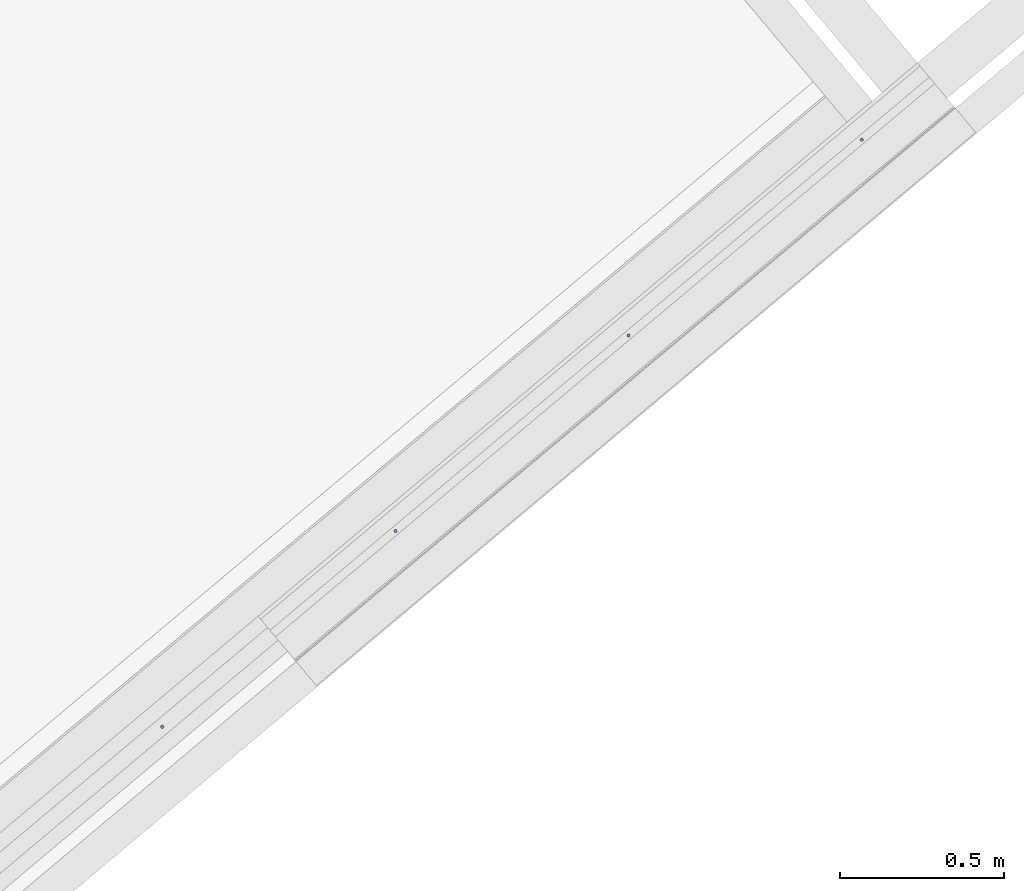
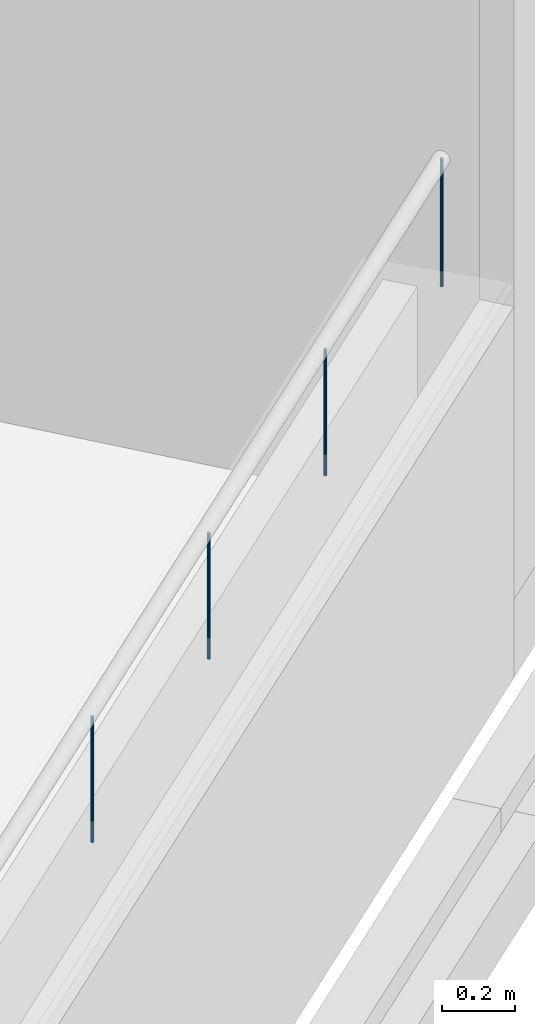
# One storey, part 11 of 321: 4 members, 1 element without a shape of its own.
"""IFC2X3 building model written with IfcOpenShell, lengths in millimetres."""

from ifc_helpers import new_model, entity, si_unit, converted_unit, derived_unit, money_unit, direction, frame, origin_with_axes, place, context, subcontext, project, spatial, faceted_brep, source, transform, mapped, material, type_object, type_shapes, element, aggregate, save


model = new_model("IFC2X3")

# Units and contexts
model_context = context("Model", 3, precision=0.01, world=origin_with_axes(), true_north=direction((0.0, 1.0)))
plan_context = context("Plan", 3, precision=0.01, world=origin_with_axes(), true_north=direction((0.0, 1.0)))
body_context = subcontext(model_context, "Body", "Model", "MODEL_VIEW")
ifc_project = project(units=[si_unit("LENGTHUNIT", "METRE", prefix="MILLI"), si_unit("AREAUNIT", "SQUARE_METRE"), si_unit("VOLUMEUNIT", "CUBIC_METRE"), converted_unit("PLANEANGLEUNIT", "DEGREE", entity("IfcPlaneAngleMeasure", 0.0174532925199), si_unit("PLANEANGLEUNIT", "RADIAN"), dimensions=[0, 0, 0, 0, 0, 0, 0]), money_unit("EUR"), converted_unit("TIMEUNIT", "Year", entity("IfcTimeMeasure", 31556926.0), si_unit("TIMEUNIT", "SECOND"), dimensions=[0, 0, 1, 0, 0, 0, 0]), si_unit("MASSUNIT", "GRAM", prefix="KILO"), si_unit("THERMODYNAMICTEMPERATUREUNIT", "DEGREE_CELSIUS"), si_unit("LUMINOUSINTENSITYUNIT", "LUMEN"), si_unit("ENERGYUNIT", "JOULE", prefix="MEGA"), derived_unit("THERMALCONDUCTANCEUNIT", [(si_unit("POWERUNIT", "WATT"), 1), (si_unit("LENGTHUNIT", "METRE"), -1), (si_unit("THERMODYNAMICTEMPERATUREUNIT", "KELVIN"), -1)]), derived_unit("SPECIFICHEATCAPACITYUNIT", [(si_unit("ENERGYUNIT", "JOULE"), 1), (si_unit("MASSUNIT", "GRAM", prefix="KILO"), -1), (si_unit("THERMODYNAMICTEMPERATUREUNIT", "KELVIN"), -1)]), derived_unit("MASSDENSITYUNIT", [(si_unit("MASSUNIT", "GRAM", prefix="KILO"), 1), (si_unit("VOLUMEUNIT", "CUBIC_METRE"), -1)])], contexts=[model_context, plan_context])

# Site, building, storey
site_placement = place(None, origin_with_axes())
site = spatial("IfcSite", under=ifc_project, at=site_placement, Name="Fortuinstraat Woensdrecht", CompositionType="ELEMENT")
building_placement = place(site_placement, origin_with_axes())
building = spatial("IfcBuilding", under=site, at=building_placement, Name="IKC Fortuna", CompositionType="ELEMENT")
storey_placement = place(building_placement, frame((0.0, 0.0, 4000.0), z_axis=(0.0, 0.0, 1.0), x_axis=(1.0, 0.0, 0.0)))
storey = spatial("IfcBuildingStorey", under=building, at=storey_placement, Name="01 eerste verdieping", CompositionType="ELEMENT", Elevation=4000.0)

# Railing, members
railing_type = type_object("IfcRailingType", Name="Railing Type", PredefinedType="NOTDEFINED")
railing_placement = place(storey_placement, frame((4151.56334028, 3601.06192057, 2353.5), z_axis=(0.0, 0.0, 1.0), x_axis=(1.0, 0.0, 0.0)))
railing = element("IfcRailing", 1, at=railing_placement, inside=storey, type_object=railing_type, Name="34_Reling_Reling vide", PredefinedType="NOTDEFINED")
ifc_material = material(Name="Metaal - Staal AFW")
member_type_1 = type_object("IfcMemberType", Name="IfcMember", PredefinedType="POST")
shared_shape_1 = source(origin_with_axes(), body_context, "Body", "Brep", [
    faceted_brep([(0.0, -5.0, 0.0), (0.868240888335, -4.92403876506, 0.0), (0.868240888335, -4.92403876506, 425.0), (0.0, -5.0, 425.0), (-0.868240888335, -4.92403876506, 0.0), (-1.71010071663, -4.69846310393, 0.0), (-2.5, -4.33012701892, 0.0), (-3.21393804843, -3.83022221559, 0.0), (-3.83022221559, -3.21393804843, 0.0), (-4.33012701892, -2.5, 0.0), (-4.69846310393, -1.71010071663, 0.0), (-4.92403876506, -0.868240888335, 0.0), (-5.0, 0.0, 0.0), (-4.92403876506, 0.868240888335, 0.0), (-4.69846310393, 1.71010071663, 0.0), (-4.33012701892, 2.5, 0.0), (-3.83022221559, 3.21393804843, 0.0), (-3.21393804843, 3.83022221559, 0.0), (-2.5, 4.33012701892, 0.0), (-1.71010071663, 4.69846310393, 0.0), (-0.868240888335, 4.92403876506, 0.0), (0.0, 5.0, 0.0), (0.868240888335, 4.92403876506, 0.0), (1.71010071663, 4.69846310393, 0.0), (2.5, 4.33012701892, 0.0), (3.21393804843, 3.83022221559, 0.0), (3.83022221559, 3.21393804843, 0.0), (4.33012701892, 2.5, 0.0), (4.69846310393, 1.71010071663, 0.0), (4.92403876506, 0.868240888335, 0.0), (5.0, 0.0, 0.0), (4.92403876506, -0.868240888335, 0.0), (4.69846310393, -1.71010071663, 0.0), (4.33012701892, -2.5, 0.0), (3.83022221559, -3.21393804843, 0.0), (3.21393804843, -3.83022221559, 0.0), (2.5, -4.33012701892, 0.0), (1.71010071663, -4.69846310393, 0.0), (1.71010071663, -4.69846310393, 425.0), (2.5, -4.33012701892, 425.0), (3.21393804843, -3.83022221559, 425.0), (3.83022221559, -3.21393804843, 425.0), (4.33012701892, -2.5, 425.0), (4.69846310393, -1.71010071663, 425.0), (4.92403876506, -0.868240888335, 425.0), (5.0, 0.0, 425.0), (4.92403876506, 0.868240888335, 425.0), (4.69846310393, 1.71010071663, 425.0), (4.33012701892, 2.5, 425.0), (3.83022221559, 3.21393804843, 425.0), (3.21393804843, 3.83022221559, 425.0), (2.5, 4.33012701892, 425.0), (1.71010071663, 4.69846310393, 425.0), (0.868240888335, 4.92403876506, 425.0), (0.0, 5.0, 425.0), (-0.868240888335, 4.92403876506, 425.0), (-1.71010071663, 4.69846310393, 425.0), (-2.5, 4.33012701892, 425.0), (-3.21393804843, 3.83022221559, 425.0), (-3.83022221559, 3.21393804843, 425.0), (-4.33012701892, 2.5, 425.0), (-4.69846310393, 1.71010071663, 425.0), (-4.92403876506, 0.868240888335, 425.0), (-5.0, 0.0, 425.0), (-4.92403876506, -0.868240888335, 425.0), (-4.69846310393, -1.71010071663, 425.0), (-4.33012701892, -2.5, 425.0), (-3.83022221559, -3.21393804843, 425.0), (-3.21393804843, -3.83022221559, 425.0), (-2.5, -4.33012701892, 425.0), (-1.71010071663, -4.69846310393, 425.0), (-0.868240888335, -4.92403876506, 425.0)], [[[0, 1, 2, 3]], [[0, 4, 5, 6, 7, 8, 9, 10, 11, 12, 13, 14, 15, 16, 17, 18, 19, 20, 21, 22, 23, 24, 25, 26, 27, 28, 29, 30, 31, 32, 33, 34, 35, 36, 37, 1]], [[1, 37, 38, 2]], [[3, 2, 38, 39, 40, 41, 42, 43, 44, 45, 46, 47, 48, 49, 50, 51, 52, 53, 54, 55, 56, 57, 58, 59, 60, 61, 62, 63, 64, 65, 66, 67, 68, 69, 70, 71]], [[4, 0, 3, 71]], [[5, 4, 71, 70]], [[6, 5, 70, 69]], [[7, 6, 69, 68]], [[8, 7, 68, 67]], [[9, 8, 67, 66]], [[10, 9, 66, 65]], [[11, 10, 65, 64]], [[12, 11, 64, 63]], [[13, 12, 63, 62]], [[14, 13, 62, 61]], [[15, 14, 61, 60]], [[16, 15, 60, 59]], [[17, 16, 59, 58]], [[18, 17, 58, 57]], [[19, 18, 57, 56]], [[20, 19, 56, 55]], [[21, 20, 55, 54]], [[22, 21, 54, 53]], [[23, 22, 53, 52]], [[24, 23, 52, 51]], [[25, 24, 51, 50]], [[26, 25, 50, 49]], [[27, 26, 49, 48]], [[28, 27, 48, 47]], [[29, 28, 47, 46]], [[30, 29, 46, 45]], [[31, 30, 45, 44]], [[32, 31, 44, 43]], [[33, 32, 43, 42]], [[34, 33, 42, 41]], [[35, 34, 41, 40]], [[36, 35, 40, 39]], [[37, 36, 39, 38]]]),
])
type_shapes(member_type_1, [shared_shape_1])
member_1_placement = place(railing_placement, frame((14197.894383, -16920.3917701, 0.0), z_axis=(0.0, 0.0, 1.0), x_axis=(1.0, 0.0, 0.0)))
member_1 = element("IfcMember", 2, at=member_1_placement, type_object=member_type_1, material=ifc_material, Name="_Reling - baluster_", ObjectType="POST", context=body_context, shape_type="MappedRepresentation", body=[
    mapped(shared_shape_1, transform((0.0, 0.0, 0.0), x_axis=(0.642787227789, -0.766044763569, 0.0), y_axis=(0.766044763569, 0.642787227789, 0.0), z_axis=(0.0, 0.0, 1.0))),
])
member_type_2 = type_object("IfcMemberType", Name="IfcMember", PredefinedType="MEMBER")
shared_shape_2 = source(origin_with_axes(), body_context, "Body", "Brep", [
    faceted_brep([(0.0, -5.0, 0.0), (0.868240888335, -4.92403876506, 0.0), (0.868240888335, -4.92403876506, 418.5), (0.0, -5.0, 418.5), (-0.868240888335, -4.92403876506, 0.0), (-1.71010071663, -4.69846310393, 0.0), (-2.5, -4.33012701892, 0.0), (-3.21393804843, -3.83022221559, 0.0), (-3.83022221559, -3.21393804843, 0.0), (-4.33012701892, -2.5, 0.0), (-4.69846310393, -1.71010071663, 0.0), (-4.92403876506, -0.868240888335, 0.0), (-5.0, 0.0, 0.0), (-4.92403876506, 0.868240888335, 0.0), (-4.69846310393, 1.71010071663, 0.0), (-4.33012701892, 2.5, 0.0), (-3.83022221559, 3.21393804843, 0.0), (-3.21393804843, 3.83022221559, 0.0), (-2.5, 4.33012701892, 0.0), (-1.71010071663, 4.69846310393, 0.0), (-0.868240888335, 4.92403876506, 0.0), (0.0, 5.0, 0.0), (0.868240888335, 4.92403876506, 0.0), (1.71010071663, 4.69846310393, 0.0), (2.5, 4.33012701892, 0.0), (3.21393804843, 3.83022221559, 0.0), (3.83022221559, 3.21393804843, 0.0), (4.33012701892, 2.5, 0.0), (4.69846310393, 1.71010071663, 0.0), (4.92403876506, 0.868240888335, 0.0), (5.0, 0.0, 0.0), (4.92403876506, -0.868240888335, 0.0), (4.69846310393, -1.71010071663, 0.0), (4.33012701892, -2.5, 0.0), (3.83022221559, -3.21393804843, 0.0), (3.21393804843, -3.83022221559, 0.0), (2.5, -4.33012701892, 0.0), (1.71010071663, -4.69846310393, 0.0), (1.71010071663, -4.69846310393, 418.5), (2.5, -4.33012701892, 418.5), (3.21393804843, -3.83022221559, 418.5), (3.83022221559, -3.21393804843, 418.5), (4.33012701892, -2.5, 418.5), (4.69846310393, -1.71010071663, 418.5), (4.92403876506, -0.868240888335, 418.5), (5.0, 0.0, 418.5), (4.92403876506, 0.868240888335, 418.5), (4.69846310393, 1.71010071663, 418.5), (4.33012701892, 2.5, 418.5), (3.83022221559, 3.21393804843, 418.5), (3.21393804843, 3.83022221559, 418.5), (2.5, 4.33012701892, 418.5), (1.71010071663, 4.69846310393, 418.5), (0.868240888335, 4.92403876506, 418.5), (0.0, 5.0, 418.5), (-0.868240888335, 4.92403876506, 418.5), (-1.71010071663, 4.69846310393, 418.5), (-2.5, 4.33012701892, 418.5), (-3.21393804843, 3.83022221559, 418.5), (-3.83022221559, 3.21393804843, 418.5), (-4.33012701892, 2.5, 418.5), (-4.69846310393, 1.71010071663, 418.5), (-4.92403876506, 0.868240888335, 418.5), (-5.0, 0.0, 418.5), (-4.92403876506, -0.868240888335, 418.5), (-4.69846310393, -1.71010071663, 418.5), (-4.33012701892, -2.5, 418.5), (-3.83022221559, -3.21393804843, 418.5), (-3.21393804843, -3.83022221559, 418.5), (-2.5, -4.33012701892, 418.5), (-1.71010071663, -4.69846310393, 418.5), (-0.868240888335, -4.92403876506, 418.5)], [[[0, 1, 2, 3]], [[0, 4, 5, 6, 7, 8, 9, 10, 11, 12, 13, 14, 15, 16, 17, 18, 19, 20, 21, 22, 23, 24, 25, 26, 27, 28, 29, 30, 31, 32, 33, 34, 35, 36, 37, 1]], [[1, 37, 38, 2]], [[3, 2, 38, 39, 40, 41, 42, 43, 44, 45, 46, 47, 48, 49, 50, 51, 52, 53, 54, 55, 56, 57, 58, 59, 60, 61, 62, 63, 64, 65, 66, 67, 68, 69, 70, 71]], [[4, 0, 3, 71]], [[5, 4, 71, 70]], [[6, 5, 70, 69]], [[7, 6, 69, 68]], [[8, 7, 68, 67]], [[9, 8, 67, 66]], [[10, 9, 66, 65]], [[11, 10, 65, 64]], [[12, 11, 64, 63]], [[13, 12, 63, 62]], [[14, 13, 62, 61]], [[15, 14, 61, 60]], [[16, 15, 60, 59]], [[17, 16, 59, 58]], [[18, 17, 58, 57]], [[19, 18, 57, 56]], [[20, 19, 56, 55]], [[21, 20, 55, 54]], [[22, 21, 54, 53]], [[23, 22, 53, 52]], [[24, 23, 52, 51]], [[25, 24, 51, 50]], [[26, 25, 50, 49]], [[27, 26, 49, 48]], [[28, 27, 48, 47]], [[29, 28, 47, 46]], [[30, 29, 46, 45]], [[31, 30, 45, 44]], [[32, 31, 44, 43]], [[33, 32, 43, 42]], [[34, 33, 42, 41]], [[35, 34, 41, 40]], [[36, 35, 40, 39]], [[37, 36, 39, 38]]]),
])
type_shapes(member_type_2, [shared_shape_2])
member_2_placement = place(railing_placement, frame((12066.3748578, -18708.9472068, -18.5), z_axis=(0.0, 0.0, 1.0), x_axis=(1.0, 0.0, 0.0)))
member_2 = element("IfcMember", 3, at=member_2_placement, type_object=member_type_2, material=ifc_material, Name="_Onderdeel_Spijlen-x", ObjectType="MEMBER", context=body_context, shape_type="MappedRepresentation", body=[
    mapped(shared_shape_2, transform((0.0, 0.0, 0.0), x_axis=(0.642787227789, -0.766044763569, 0.0), y_axis=(0.766044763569, 0.642787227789, 0.0), z_axis=(0.0, 0.0, 1.0))),
])
member_3_placement = place(railing_placement, frame((12776.8813662, -18112.7620612, -18.5), z_axis=(0.0, 0.0, 1.0), x_axis=(1.0, 0.0, 0.0)))
member_3 = element("IfcMember", 4, at=member_3_placement, type_object=member_type_2, material=ifc_material, Name="_Onderdeel_Spijlen-x", ObjectType="MEMBER", context=body_context, shape_type="MappedRepresentation", body=[
    mapped(shared_shape_2, transform((0.0, 0.0, 0.0), x_axis=(0.642787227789, -0.766044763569, 0.0), y_axis=(0.766044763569, 0.642787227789, 0.0), z_axis=(0.0, 0.0, 1.0))),
])
member_4_placement = place(railing_placement, frame((13487.3878746, -17516.5769156, -18.5), z_axis=(0.0, 0.0, 1.0), x_axis=(1.0, 0.0, 0.0)))
member_4 = element("IfcMember", 5, at=member_4_placement, type_object=member_type_2, material=ifc_material, Name="_Onderdeel_Spijlen-x", ObjectType="MEMBER", context=body_context, shape_type="MappedRepresentation", body=[
    mapped(shared_shape_2, transform((0.0, 0.0, 0.0), x_axis=(0.642787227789, -0.766044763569, 0.0), y_axis=(0.766044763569, 0.642787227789, 0.0), z_axis=(0.0, 0.0, 1.0))),
])
aggregate(railing, [member_1, member_2, member_3, member_4])

save(model, "model.ifc")
